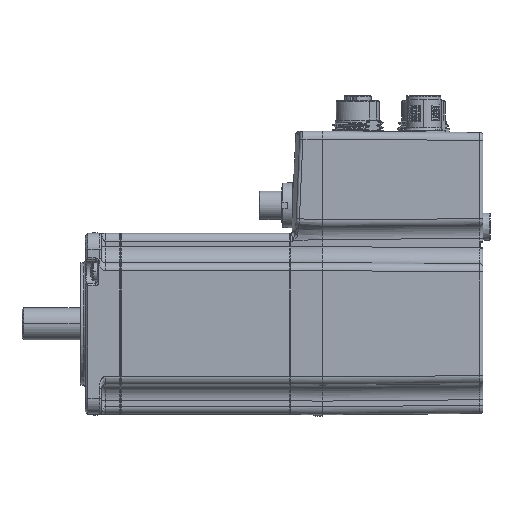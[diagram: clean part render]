
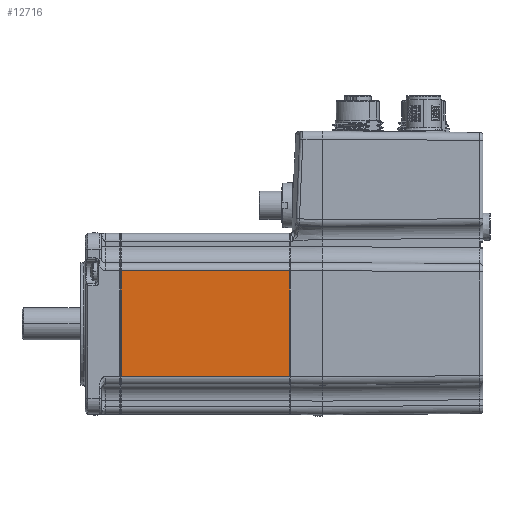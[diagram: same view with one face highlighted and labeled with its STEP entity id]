
A CAD part, top view. The second image highlights one B-rep face of the part: STEP entity #12716.
In plain terms, the highlighted planar face has unit normal (0, 0, 1) as drawn and (1, 0, 0) by its records, which use the part's own axes.
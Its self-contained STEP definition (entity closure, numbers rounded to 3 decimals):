
#11375=DIRECTION('',(0.,0.,-1.));
#11376=VECTOR('',#11375,52.6);
#11377=CARTESIAN_POINT('',(56.2,-11.5,31.8));
#11378=LINE('',#11377,#11376);
#11382=DIRECTION('',(0.,-1.,0.));
#11383=VECTOR('',#11382,33.);
#11384=CARTESIAN_POINT('',(56.2,-11.5,31.8));
#11385=LINE('',#11384,#11383);
#11389=DIRECTION('',(0.,-1.,0.));
#11390=VECTOR('',#11389,33.);
#11391=CARTESIAN_POINT('',(56.2,-11.5,-20.8));
#11392=LINE('',#11391,#11390);
#11420=DIRECTION('',(0.,0.,1.));
#11421=VECTOR('',#11420,52.6);
#11422=CARTESIAN_POINT('',(56.2,-44.5,-20.8));
#11423=LINE('',#11422,#11421);
#11784=CARTESIAN_POINT('',(56.2,-11.5,31.8));
#11785=VERTEX_POINT('',#11784);
#11788=CARTESIAN_POINT('',(56.2,-44.5,31.8));
#11789=VERTEX_POINT('',#11788);
#11882=CARTESIAN_POINT('',(56.2,-11.5,-20.8));
#11883=VERTEX_POINT('',#11882);
#11886=CARTESIAN_POINT('',(56.2,-44.5,-20.8));
#11887=VERTEX_POINT('',#11886);
#12703=CARTESIAN_POINT('',(56.2,-44.5,111.762));
#12704=DIRECTION('',(-1.,0.,0.));
#12705=DIRECTION('',(0.,0.,1.));
#12706=AXIS2_PLACEMENT_3D('',#12703,#12704,#12705);
#12707=PLANE('',#12706);
#12709=ORIENTED_EDGE('',*,*,#12708,.F.);
#12710=ORIENTED_EDGE('',*,*,#12698,.T.);
#12711=ORIENTED_EDGE('',*,*,#12165,.T.);
#12713=ORIENTED_EDGE('',*,*,#12712,.T.);
#12714=EDGE_LOOP('',(#12709,#12710,#12711,#12713));
#12715=FACE_OUTER_BOUND('',#12714,.F.);
#12165=EDGE_CURVE('',#11883,#11887,#11392,.T.);
#12698=EDGE_CURVE('',#11785,#11883,#11378,.T.);
#12708=EDGE_CURVE('',#11785,#11789,#11385,.T.);
#12712=EDGE_CURVE('',#11887,#11789,#11423,.T.);
#12716=ADVANCED_FACE('',(#12715),#12707,.F.);
